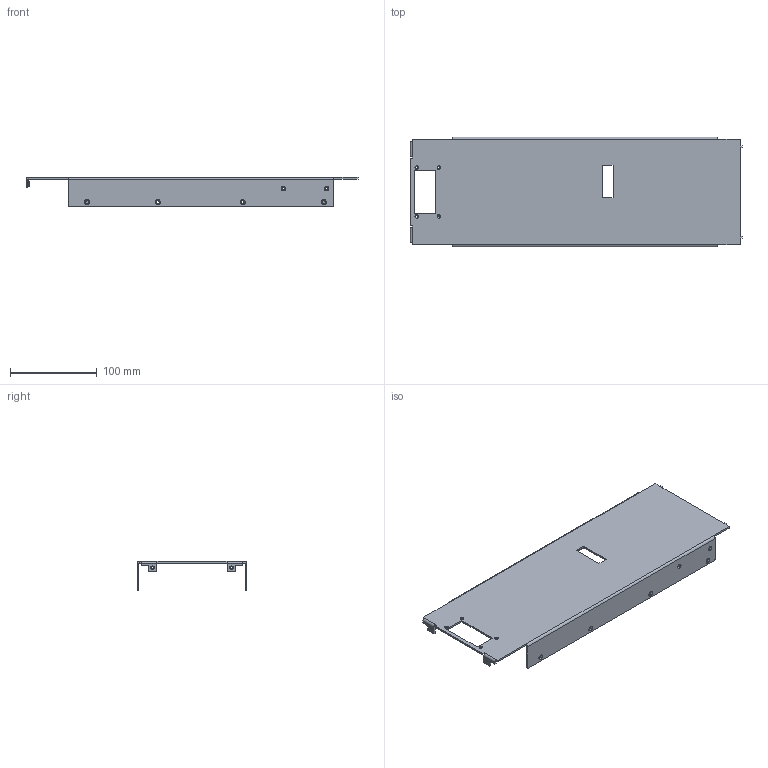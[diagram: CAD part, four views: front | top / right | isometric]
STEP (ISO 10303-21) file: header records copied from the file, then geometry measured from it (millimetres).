
FILE_DESCRIPTION(/* description */ ('','CAx-IF Rec.Pracs.---Representation and Presentation of Product Manufacturing Information (PMI)---4.0---2014-10-13'),/* implementation_level */ '2;1');
FILE_NAME(/* name */ 'G:\Alle CAD Daten\CAMTEC_2020_Pack and Go\PSU CPS-i3000 - CPS-i2000\2031049004.stp',/* time_stamp */ '2020-09-20T20:51:57+02:00',/* author */ ('rryba'),/* organization */ (''),/* preprocessor_version */ 'ST-DEVELOPER v18.1',/* originating_system */ 'Autodesk Inventor 2021',/* authorisation */ '');
FILE_SCHEMA (('AP242_MANAGED_MODEL_BASED_3D_ENGINEERING_MIM_LF { 1 0 10303 442 1 1 4 }'));
Length unit declared in the file: millimetre
Products named in the file (1): 2031049004
Bounding box: 383 x 126.4 x 33.5 mm (x, y, z)
Volume: 130029.1 mm3; surface area: 133611.8 mm2
Topology: 3 solids, 3 shells, 140 faces, 421 edges, 357 vertices
Faces by surface type: plane 66, cylinder 56, cone 16, torus 2
Full cylindrical faces by diameter (mm): 2.3 x4, 2.459 x2, 2.8 x4, 3.4 x8, 4.1 x4, 4.2 x4, 5.2 x4, 5.9 x8, 6.3 x2
Entity records: 4598 total; most frequent: CARTESIAN_POINT 834, DIRECTION 770, ORIENTED_EDGE 672, EDGE_CURVE 336, AXIS2_PLACEMENT_3D 276, LINE 218, VECTOR 218, VERTEX_POINT 204
